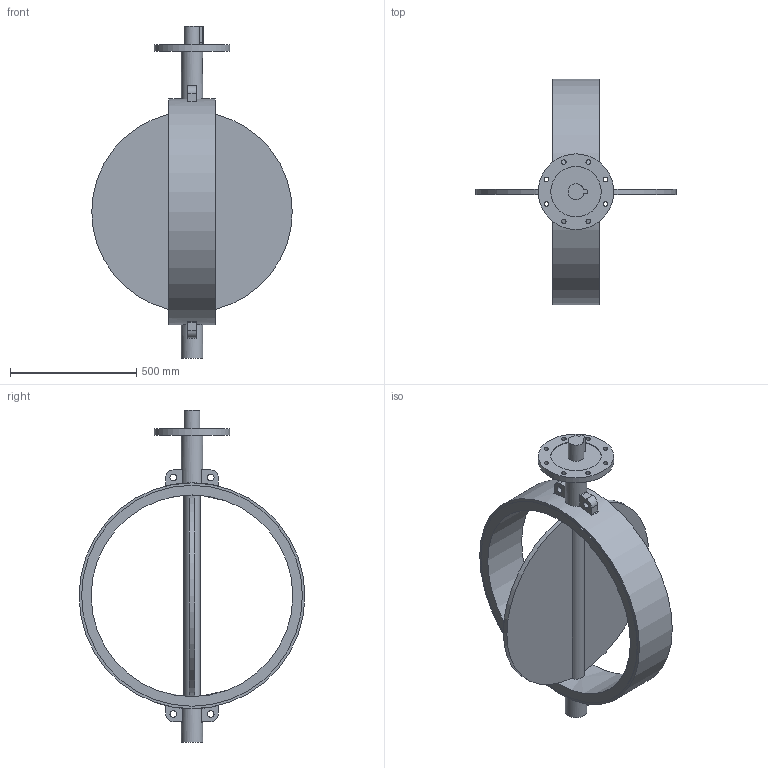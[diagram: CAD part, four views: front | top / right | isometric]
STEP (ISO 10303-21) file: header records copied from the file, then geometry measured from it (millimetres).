
FILE_DESCRIPTION(('STEP AP203'), '1');
FILE_NAME('青蜮铕 017W.YS_DN800_PN10', '', ('UNSPECIFIED'), ('UNSPECIFIED'), 'ASCON STEP Converter 1.6', 'ASCON Math Kernel', '');
FILE_SCHEMA(('CONFIG_CONTROL_DESIGN'));
Length unit declared in the file: millimetre
Bounding box: 795.4 x 896 x 1317 mm (x, y, z)
Volume: 39821973.5 mm3; surface area: 2636775.2 mm2
Topology: 1 solids, 1 shells, 93 faces, 232 edges, 154 vertices
Faces by surface type: plane 48, cylinder 41, torus 4
Full cylindrical faces by diameter (mm): 18 x8, 26.211 x4, 63.4 x1, 65 x1, 85 x2, 200 x1, 300 x1, 800 x1, 876 x2, 896 x1
Entity records: 4586 total; most frequent: CARTESIAN_POINT 1546, DIRECTION 476, ORIENTED_EDGE 420, EDGE_CURVE 210, AXIS2_PLACEMENT_3D 192, EDGE_LOOP 156, VERTEX_POINT 154, FACE_BOUND 115
